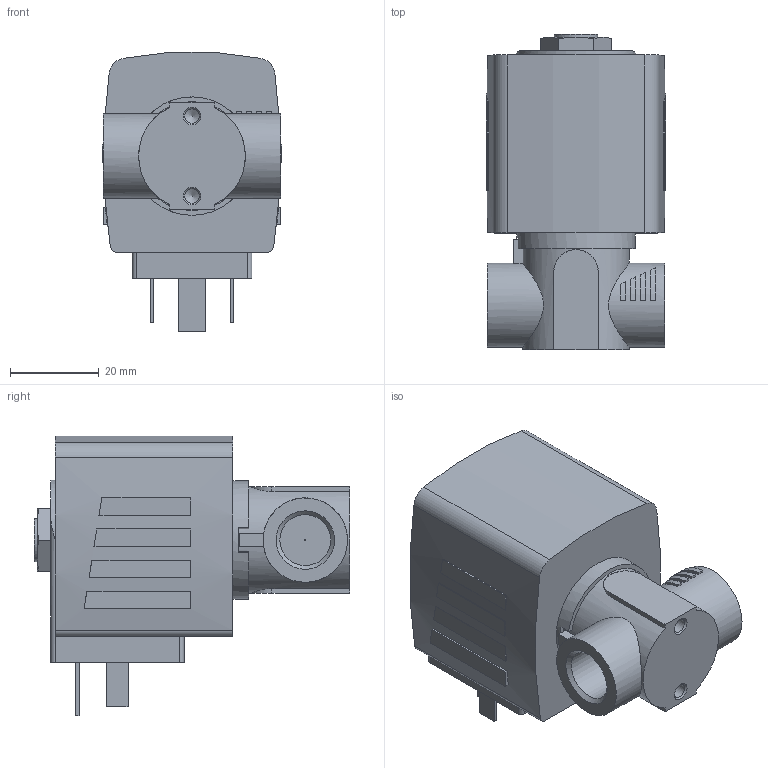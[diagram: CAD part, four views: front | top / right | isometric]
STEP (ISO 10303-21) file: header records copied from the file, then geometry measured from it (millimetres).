
FILE_DESCRIPTION(/* description */ ('STEP AP214'),/* implementation_level */ '2;1');
FILE_NAME(/* name */ '6240-377217-2_2-way_solenoid_valve__pilot-controlled',/* time_stamp */ '2024-05-07T21:38:20+02:00',/* author */ ('License CC BY-ND 4.0'),/* organization */ ('CADENAS'),/* preprocessor_version */ 'ST-DEVELOPER v19.3',/* originating_system */ 'PARTsolutions',/* authorisation */ ' ');
FILE_SCHEMA (('AUTOMOTIVE_DESIGN {1 0 10303 214 3 1 1}'));
Length unit declared in the file: millimetre
Products named in the file (3): 6240-377217-2/2-way solenoid valve, pilot-controlled; 6240-Gehaeuse-2/2-Wege-Magnetventil, vorgesteuert StandardG1/46VA; AC10ex-6NA38-Plan-Coil
Assembly tree (2 placements, depth 2):
  6240-377217-2/2-way solenoid valve, pilot-controlled
    6240-Gehaeuse-2/2-Wege-Magnetventil, vorgesteuert StandardG1/46VA
    AC10ex-6NA38-Plan-Coil
Bounding box: 40.4 x 71 x 62.83 mm (x, y, z)
Volume: 90142.6 mm3; surface area: 17082.7 mm2
Topology: 2 solids, 2 shells, 154 faces, 367 edges, 240 vertices
Faces by surface type: plane 109, cylinder 32, cone 13
Full cylindrical faces by diameter (mm): 0.2 x1, 2.013 x1, 3.242 x2, 9.74 x1, 11.445 x2, 19 x2, 24 x1, 24.5 x1, 26.65 x1
Entity records: 5492 total; most frequent: CARTESIAN_POINT 839, DIRECTION 737, ORIENTED_EDGE 678, EDGE_CURVE 339, AXIS2_PLACEMENT_3D 261, VERTEX_POINT 233, LINE 215, VECTOR 215
